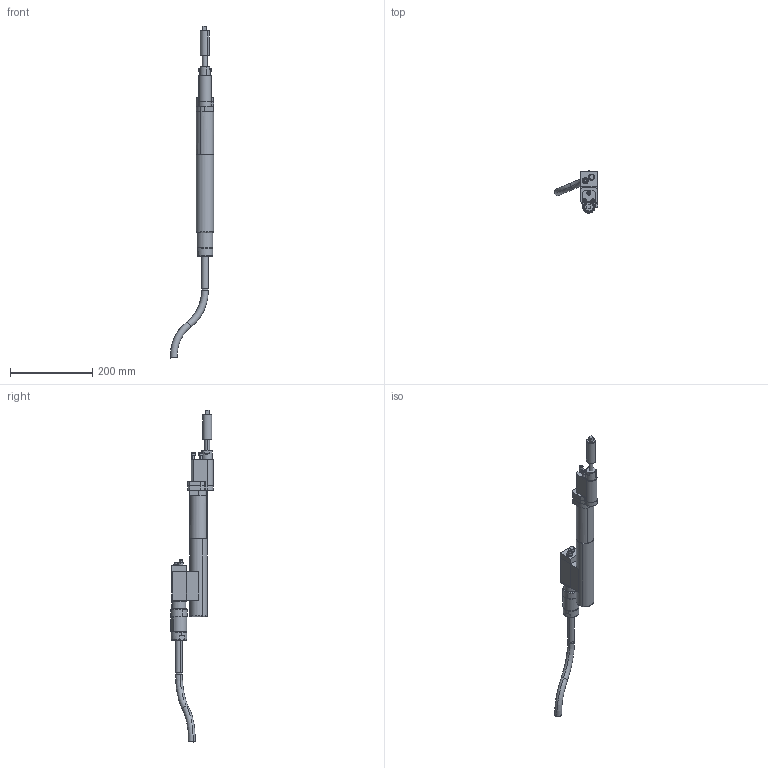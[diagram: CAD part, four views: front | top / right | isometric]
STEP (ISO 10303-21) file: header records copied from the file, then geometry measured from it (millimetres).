
FILE_DESCRIPTION(('CATIA V5 STEP Exchange'),'2;1');
FILE_NAME('O:\3D-Schrauber\Einschauschrauber Groesse1 CATIA V4+V5\7920122_ECR105_AO125_AllCATPart.stp','2008-11-06T10:33:00+00:00',('none'),('none'),'CATIA Version 5 Release 16 (IN-10)','CATIA V5 STEP AP203','none');
FILE_SCHEMA(('CONFIG_CONTROL_DESIGN'));
Length unit declared in the file: millimetre
Products named in the file (1): 7920122_ECR105_AO125_AllCATPart
Bounding box: 104.82 x 103.53 x 807.28 mm (x, y, z)
Volume: 958696.4 mm3; surface area: 142978.4 mm2
Topology: 15 solids, 15 shells, 312 faces, 696 edges, 444 vertices
Faces by surface type: plane 148, cylinder 108, cone 32, torus 24
Entity records: 8255 total; most frequent: CARTESIAN_POINT 1694, ORIENTED_EDGE 1392, DIRECTION 1130, EDGE_CURVE 696, AXIS2_PLACEMENT_3D 542, VERTEX_POINT 444, VECTOR 352, LINE 352
